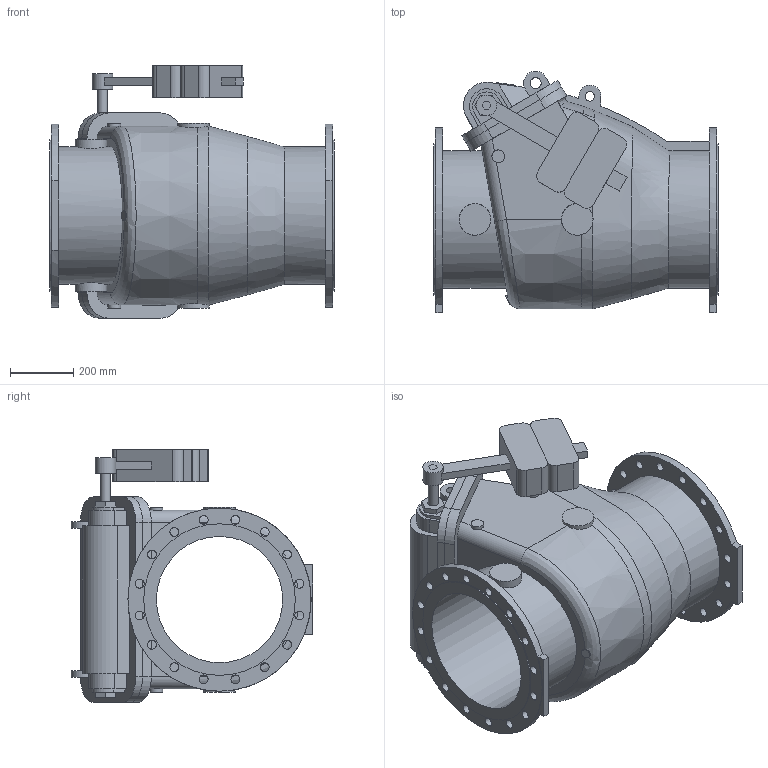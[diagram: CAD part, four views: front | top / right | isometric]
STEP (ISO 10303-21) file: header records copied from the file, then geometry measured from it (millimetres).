
FILE_DESCRIPTION (( 'STEP AP203' ), '1' );
FILE_NAME ('O_41_36_DN400_X0XXX_AA1.step', '2018-08-16T08:32:59', ( 'Windows User' ), ( 'AVK' ), 'SwSTEP 2.0', 'SolidWorks 2012', '' );
FILE_SCHEMA (( 'CONFIG_CONTROL_DESIGN' ));
Length unit declared in the file: millimetre
Products named in the file (1): O_41_36_DN400_X0XXX_AA1
Bounding box: 900 x 764.27 x 799.5 mm (x, y, z)
Volume: 126105299.6 mm3; surface area: 4089398.7 mm2
Topology: 1 solids, 1 shells, 285 faces, 796 edges, 539 vertices
Faces by surface type: plane 184, cylinder 85, bspline 16
Full cylindrical faces by diameter (mm): 28 x32, 30 x2, 32 x1, 35 x2, 40 x4, 65 x1, 100 x4, 400 x1, 436 x1, 480 x2, 580 x2
Entity records: 24475 total; most frequent: CARTESIAN_POINT 17447, ORIENTED_EDGE 1398, DIRECTION 1327, EDGE_CURVE 699, VERTEX_POINT 495, LINE 461, VECTOR 461, EDGE_LOOP 438
